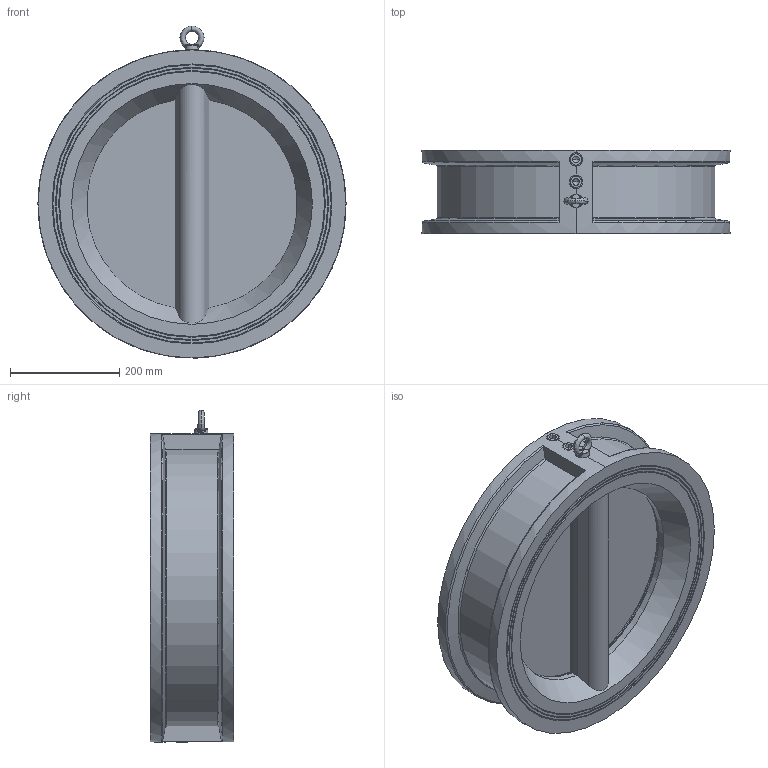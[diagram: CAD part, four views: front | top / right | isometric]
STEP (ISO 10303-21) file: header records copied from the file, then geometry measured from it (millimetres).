
FILE_DESCRIPTION (( 'STEP AP203' ), '1' );
FILE_NAME ('5306 DN450 ×°Åä PN25.STEP', '2026-05-11T01:08:46', ( '' ), ( '' ), 'SwSTEP 2.0', 'SolidWorks 2021', '' );
FILE_SCHEMA (( 'CONFIG_CONTROL_DESIGN' ));
Length unit declared in the file: millimetre
Products named in the file (7): 5306 DN450 概粣; 5306 DN450 概极; 5306 DN450 蚾饜 PN25; GB╱T 825-1988[吊环螺钉M10]_M10; 5306 DN450 境蝶; GB╱T 77-2007[内六角平端紧定螺钉M24×25]_M24×25; 5306 DN450 概啣
Assembly tree (11 placements, depth 2):
  5306 DN450 蚾饜 PN25
    5306 DN450 概极
    5306 DN450 境蝶
    5306 DN450 概粣  x2
    5306 DN450 概啣  x2
    GB╱T 77-2007[内六角平端紧定螺钉M24×25]_M24×25  x4
    GB╱T 825-1988[吊环螺钉M10]_M10
Bounding box: 563 x 152 x 606.6 mm (x, y, z)
Volume: 15504148.7 mm3; surface area: 1415613.8 mm2
Topology: 12 solids, 12 shells, 364 faces, 891 edges, 546 vertices
Faces by surface type: plane 153, cylinder 95, cone 80, torus 18, bspline 18
Entity records: 12000 total; most frequent: CARTESIAN_POINT 5319, ORIENTED_EDGE 1224, DIRECTION 1204, EDGE_CURVE 612, AXIS2_PLACEMENT_3D 471, VERTEX_POINT 382, EDGE_LOOP 278, LINE 262
